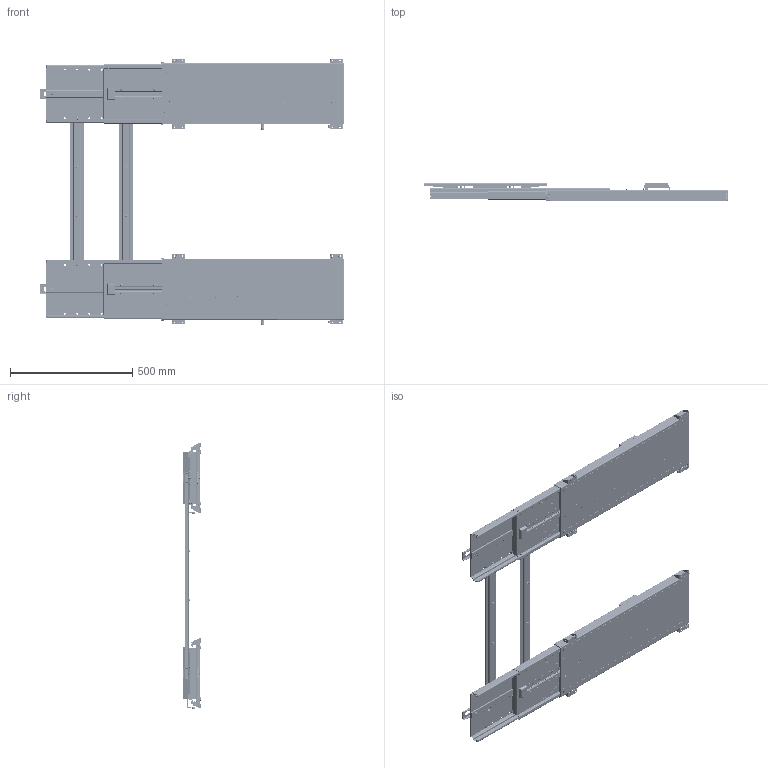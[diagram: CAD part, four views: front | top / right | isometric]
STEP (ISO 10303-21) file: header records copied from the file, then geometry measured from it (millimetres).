
FILE_DESCRIPTION (( 'STEP AP214' ), '1' );
FILE_NAME ('TS1000C TWIN.STEP', '2022-09-21T07:27:10', ( '' ), ( '' ), 'SwSTEP 2.0', 'SolidWorks 2021', '' );
FILE_SCHEMA (( 'AUTOMOTIVE_DESIGN' ));
Length unit declared in the file: millimetre
Products named in the file (70): 311250; 351960; 324460; 300600; 323530; 311590_black; 115060_Mellem +500; 312080; 323900; 304130; 320690; 310990; 320190; 150540; 114750; 320160; 310100; 304650_black; 322940; 323430; 322950; 306980_black; 322980; 314830; 308720; 323510; 342580; 323520; TS1000C TWIN; 323500; 150550; 116090; 314620; 320960; 323580; 116460; 324910; 322920; 116470; 114760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
Assembly tree (138 placements, depth 6):
  TS1000C TWIN
    150540  x2
      150550
        351960
        304130  x4
      304650_black
    144910_shell view  x2
      114750
        114740
          320140_Included punch
          320180  x4
        600360_black  x8
        324890
      144930_shell view
        114760
          320150
          323530  x6
          323580
          310990  x2
        304650
        300600  x2
        310100  x2
        324910  x4
        116090
          322920
          320190  x2
          115060_Mellem +500
            320200_Mellem +520
            320810  x2
          322940  x2
          320840  x2
        306690  x13
        322950  x2
        322980  x2
        116570  x2
          323500
          320850
          308730
        323520
        323510
        315340
        315030
        304770
        312080
        323890  x2
        323900  x2
        600360_black  x6
        324460  x2
        311250
        339270
        305680
        314620
      114790
        114780
          320160
          321290
        320250
        314830
        342580  x2
      320690
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Bounding box: 1246 x 73.5 x 1089.32 mm (x, y, z)
Volume: 4235369.3 mm3; surface area: 5037725.8 mm2
Topology: 246 solids, 246 shells, 20220 faces, 51672 edges, 33068 vertices
Faces by surface type: plane 11752, cylinder 5312, bspline 1562, torus 732, cone 606, sphere 256
Entity records: 216631 total; most frequent: CARTESIAN_POINT 66511, ORIENTED_EDGE 31154, DIRECTION 29303, EDGE_CURVE 15577, LINE 10899, VECTOR 10899, VERTEX_POINT 10043, AXIS2_PLACEMENT_3D 9202
